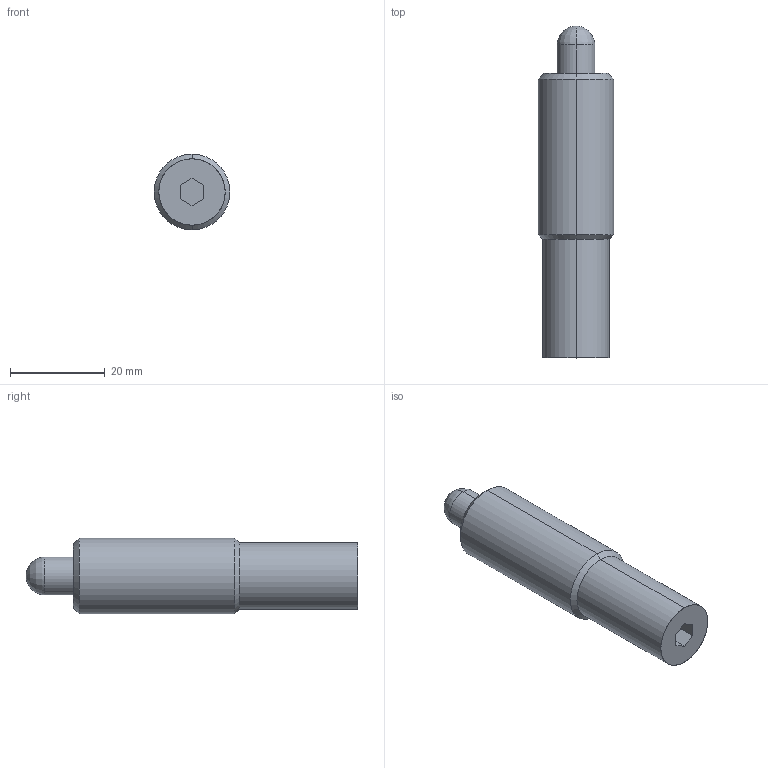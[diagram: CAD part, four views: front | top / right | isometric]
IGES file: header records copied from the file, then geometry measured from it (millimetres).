
Start section: START RECORD GO HERE.
Global section: file name: M314-04-006.igs; native system: DASSAULT SYSTEMES CATIA V5 R20 - www.3ds.com; preprocessor: CATIA Version 5 Release 20 ; author: Utente; organization: NB04-ASUS; date: 20200418.091240; units: millimetre
Bounding box: 16 x 70 x 16 mm (x, y, z)
Surface area: 3479.8 mm2 (no closed solid volume)
Topology: 0 solids, 0 shells, 21 faces, 90 edges, 88 vertices
Faces by surface type: revolution 12, extrusion 9
